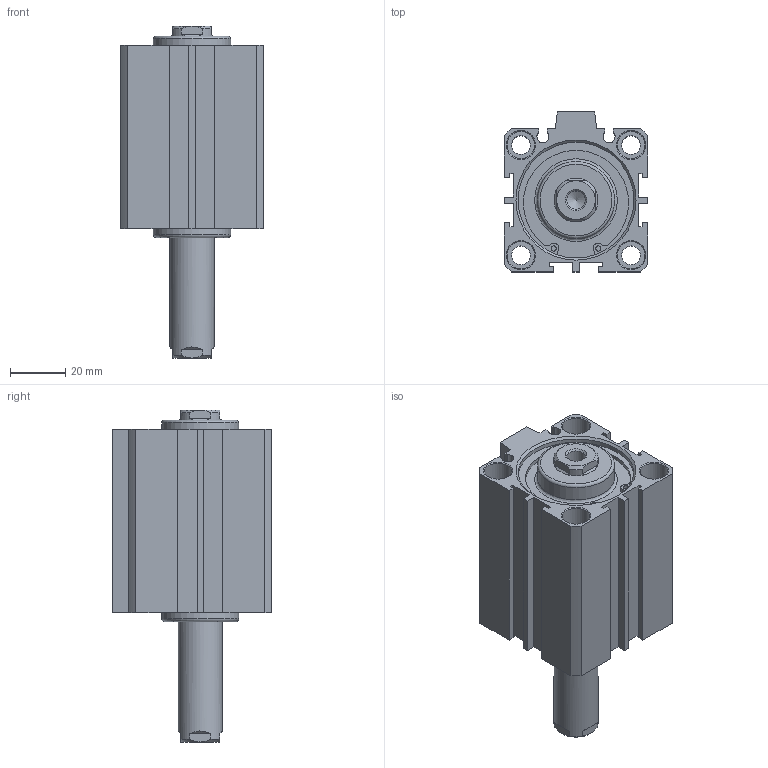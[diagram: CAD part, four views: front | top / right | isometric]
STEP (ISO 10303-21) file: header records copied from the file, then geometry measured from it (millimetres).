
FILE_DESCRIPTION((''),'2;1');
FILE_NAME('I:\3D電子目錄\氣缸\JDD\JDD\JDD40\JDD40x40.stp','2007-02-08T10:51:59',('662F206'),(''),'Autodesk Inventor 10','Autodesk Inventor 10','');
FILE_SCHEMA(('AUTOMOTIVE_DESIGN { 1 0 10303 214 1 1 1 1 }'));
Length unit declared in the file: millimetre
Products named in the file (3): JDD40; R 形環 42
Assembly tree (3 placements, depth 2):
  JDD40
    JDD40
    R 形環 42  x2
Bounding box: 52 x 58 x 120.5 mm (x, y, z)
Volume: 165163.9 mm3; surface area: 39201.3 mm2
Topology: 3 solids, 3 shells, 179 faces, 431 edges, 280 vertices
Faces by surface type: plane 98, cylinder 49, cone 24, bspline 6, torus 2
Full cylindrical faces by diameter (mm): 1.9 x4, 2.2 x2, 6.8 x4, 10 x8, 16 x1, 28 x2, 42 x4, 44.5 x2
Entity records: 4755 total; most frequent: CARTESIAN_POINT 955, DIRECTION 792, ORIENTED_EDGE 686, EDGE_CURVE 343, AXIS2_PLACEMENT_3D 298, VERTEX_POINT 251, EDGE_LOOP 250, VECTOR 196
